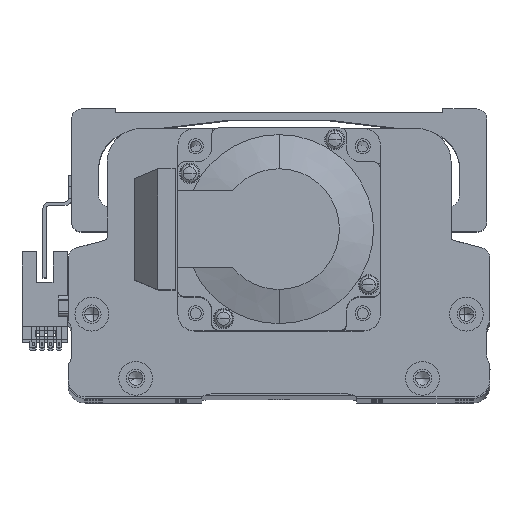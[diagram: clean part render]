
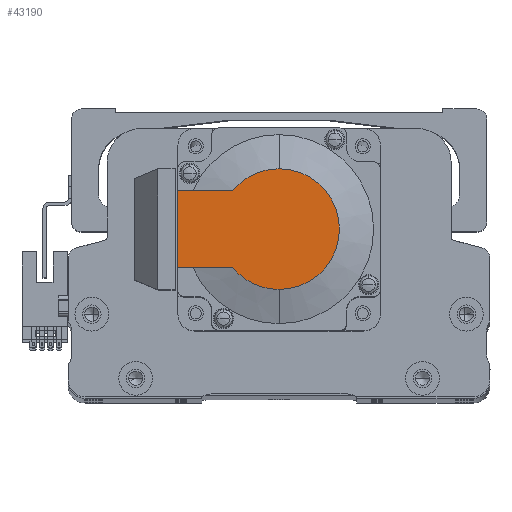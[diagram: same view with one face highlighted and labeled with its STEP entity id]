
A CAD part, top view. The second image highlights one B-rep face of the part: STEP entity #43190.
In plain terms, the highlighted planar face has unit normal (0, 0, 1) as drawn and (-1, 0, 0) by its records, which use the part's own axes.
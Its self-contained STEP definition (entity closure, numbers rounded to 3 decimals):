
#2307 = CARTESIAN_POINT ( 'NONE',  ( -118.5, 30., -11.45 ) ) ;
#3518 = VERTEX_POINT ( 'NONE', #49765 ) ;
#5368 = ORIENTED_EDGE ( 'NONE', *, *, #5530, .F. ) ;
#5530 = EDGE_CURVE ( 'NONE', #12134, #3518, #13369, .T. ) ;
#6082 = VECTOR ( 'NONE', #11549, 1000. ) ;
#6258 = CARTESIAN_POINT ( 'NONE',  ( -118.5, 0., 17.881 ) ) ;
#9969 = ORIENTED_EDGE ( 'NONE', *, *, #52182, .T. ) ;
#10717 = LINE ( 'NONE', #38869, #52426 ) ;
#11549 = DIRECTION ( 'NONE',  ( 0., -1., 0. ) ) ;
#11729 = DIRECTION ( 'NONE',  ( -1., 0., 0. ) ) ;
#12065 = VECTOR ( 'NONE', #26639, 1000. ) ;
#12134 = VERTEX_POINT ( 'NONE', #2307 ) ;
#12572 = CARTESIAN_POINT ( 'NONE',  ( -118.5, 0., 0. ) ) ;
#12841 = AXIS2_PLACEMENT_3D ( 'NONE', #46722, #22531, #50761 ) ;
#13369 = LINE ( 'NONE', #34803, #12065 ) ;
#14109 = CIRCLE ( 'NONE', #36186, 17.881 ) ;
#14787 = DIRECTION ( 'NONE',  ( -1., 0., 0. ) ) ;
#16599 = DIRECTION ( 'NONE',  ( 0., 0., -1. ) ) ;
#17477 = ORIENTED_EDGE ( 'NONE', *, *, #50652, .T. ) ;
#18007 = EDGE_LOOP ( 'NONE', ( #17477, #20441, #9969, #26087, #52076, #5368 ) ) ;
#20441 = ORIENTED_EDGE ( 'NONE', *, *, #49733, .T. ) ;
#22531 = DIRECTION ( 'NONE',  ( -1., 0., 0. ) ) ;
#23456 = CARTESIAN_POINT ( 'NONE',  ( -118.5, 0., -17.881 ) ) ;
#24150 = CARTESIAN_POINT ( 'NONE',  ( -118.5, 13.735, 11.45 ) ) ;
#26087 = ORIENTED_EDGE ( 'NONE', *, *, #43493, .T. ) ;
#26639 = DIRECTION ( 'NONE',  ( 0., 0., 1. ) ) ;
#31900 = CARTESIAN_POINT ( 'NONE',  ( -118.5, 0., 11.45 ) ) ;
#34803 = CARTESIAN_POINT ( 'NONE',  ( -118.5, 30., 25. ) ) ;
#35530 = VERTEX_POINT ( 'NONE', #23456 ) ;
#35889 = AXIS2_PLACEMENT_3D ( 'NONE', #38994, #14787, #43067 ) ;
#35940 = CARTESIAN_POINT ( 'NONE',  ( -118.5, 0., 0. ) ) ;
#36186 = AXIS2_PLACEMENT_3D ( 'NONE', #12572, #40831, #16599 ) ;
#38062 = PLANE ( 'NONE',  #12841 ) ;
#38444 = VERTEX_POINT ( 'NONE', #24150 ) ;
#38869 = CARTESIAN_POINT ( 'NONE',  ( -118.5, -8.941, -11.45 ) ) ;
#38994 = CARTESIAN_POINT ( 'NONE',  ( -118.5, 0., 0. ) ) ;
#39749 = VERTEX_POINT ( 'NONE', #6258 ) ;
#39956 = CIRCLE ( 'NONE', #48991, 17.881 ) ;
#39999 = EDGE_CURVE ( 'NONE', #3518, #38444, #49124, .T. ) ;
#40000 = DIRECTION ( 'NONE',  ( 0., 0., -1. ) ) ;
#40831 = DIRECTION ( 'NONE',  ( -1., 0., 0. ) ) ;
#43067 = DIRECTION ( 'NONE',  ( 0., 0., -1. ) ) ;
#43113 = DIRECTION ( 'NONE',  ( 0., -1., 0. ) ) ;
#43190 = ADVANCED_FACE ( 'NONE', ( #48940 ), #38062, .T. ) ;
#43475 = CARTESIAN_POINT ( 'NONE',  ( -118.5, 13.735, -11.45 ) ) ;
#43493 = EDGE_CURVE ( 'NONE', #39749, #38444, #14109, .T. ) ;
#46722 = CARTESIAN_POINT ( 'NONE',  ( -118.5, -8.941, 0. ) ) ;
#47254 = CIRCLE ( 'NONE', #35889, 17.881 ) ;
#48940 = FACE_OUTER_BOUND ( 'NONE', #18007, .T. ) ;
#48991 = AXIS2_PLACEMENT_3D ( 'NONE', #35940, #11729, #40000 ) ;
#49124 = LINE ( 'NONE', #31900, #6082 ) ;
#49733 = EDGE_CURVE ( 'NONE', #51715, #35530, #39956, .T. ) ;
#49765 = CARTESIAN_POINT ( 'NONE',  ( -118.5, 30., 11.45 ) ) ;
#50652 = EDGE_CURVE ( 'NONE', #12134, #51715, #10717, .T. ) ;
#50761 = DIRECTION ( 'NONE',  ( 0., 0., 1. ) ) ;
#51715 = VERTEX_POINT ( 'NONE', #43475 ) ;
#52076 = ORIENTED_EDGE ( 'NONE', *, *, #39999, .F. ) ;
#52182 = EDGE_CURVE ( 'NONE', #35530, #39749, #47254, .T. ) ;
#52426 = VECTOR ( 'NONE', #43113, 1000. ) ;
